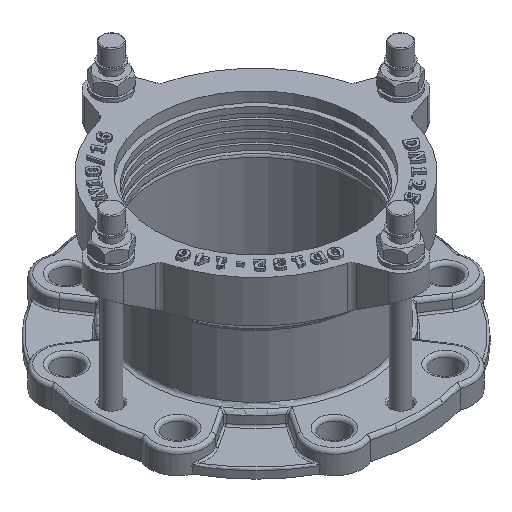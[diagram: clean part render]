
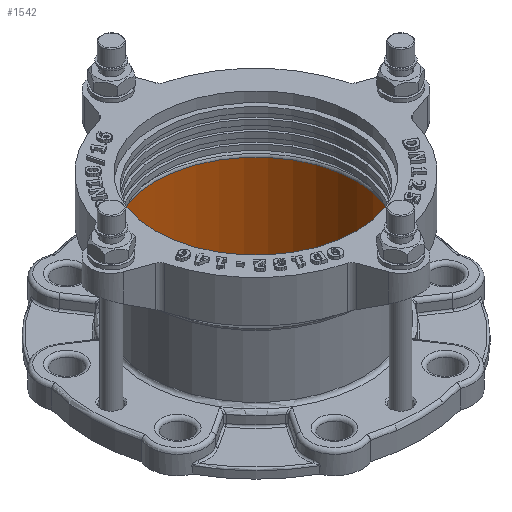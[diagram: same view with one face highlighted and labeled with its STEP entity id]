
A CAD part, isometric view. The second image highlights one B-rep face of the part: STEP entity #1542.
In plain terms, the highlighted cylindrical face has radius 73 mm (diameter 146 mm), a full revolution.
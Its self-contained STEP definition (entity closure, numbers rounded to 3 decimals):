
#1542=ADVANCED_FACE('',(#10336,#10338),#10340,.F.);
#10336=FACE_OUTER_BOUND('',#10337,.T.);
#10337=EDGE_LOOP('',(#15828));
#10338=FACE_OUTER_BOUND('',#10339,.T.);
#10339=EDGE_LOOP('',(#15829));
#10340=CYLINDRICAL_SURFACE('',#10341,73.);
#10341=AXIS2_PLACEMENT_3D('',#10342,#10343,#10344);
#10342=CARTESIAN_POINT('',(0.,0.,3.));
#10343=DIRECTION('',(0.,0.,1.));
#10344=DIRECTION('',(-1.,0.,0.));
#15828=ORIENTED_EDGE('',*,*,#20408,.F.);
#15829=ORIENTED_EDGE('',*,*,#20407,.T.);
#20407=EDGE_CURVE('',#23078,#23078,#23079,.F.);
#20408=EDGE_CURVE('',#23080,#23080,#23081,.T.);
#23078=VERTEX_POINT('',#32751);
#23079=CIRCLE('',#32752,73.);
#23080=VERTEX_POINT('',#32756);
#23081=CIRCLE('',#32757,73.);
#32751=CARTESIAN_POINT('',(0.,73.,5.5));
#32752=AXIS2_PLACEMENT_3D('',#32753,#32754,#32755);
#32753=CARTESIAN_POINT('',(0.,0.,5.5));
#32754=DIRECTION('',(0.,0.,1.));
#32755=DIRECTION('',(0.,1.,0.));
#32756=CARTESIAN_POINT('',(0.,73.,68.75));
#32757=AXIS2_PLACEMENT_3D('',#32758,#32759,#32760);
#32758=CARTESIAN_POINT('',(0.,0.,68.75));
#32759=DIRECTION('',(0.,0.,-1.));
#32760=DIRECTION('',(0.,1.,0.));
